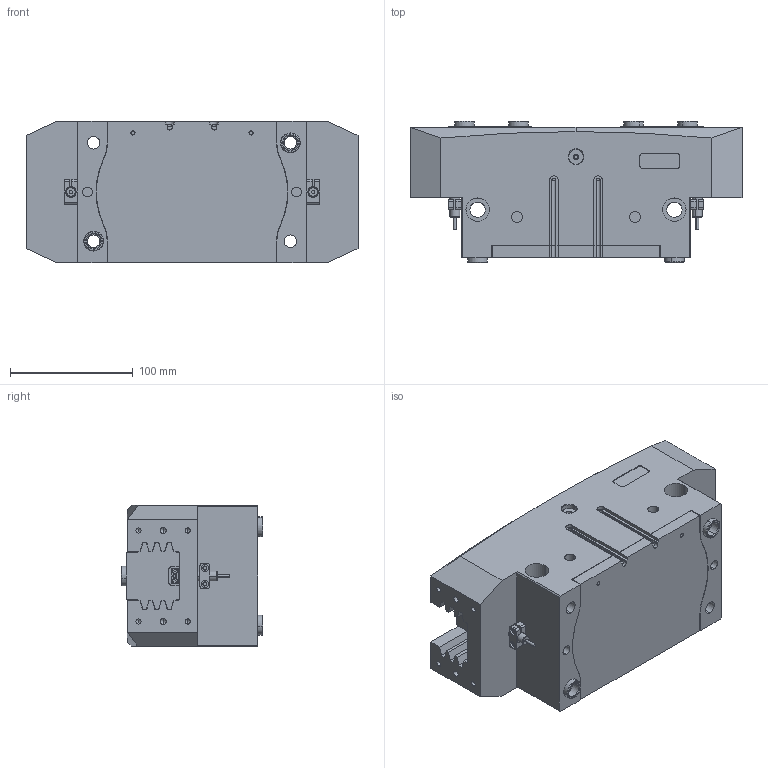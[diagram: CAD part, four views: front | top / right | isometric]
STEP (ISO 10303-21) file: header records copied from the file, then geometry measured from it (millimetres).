
FILE_DESCRIPTION (( 'STEP AP214' ), '1' );
FILE_NAME ('ST117-30.STEP', '2026-04-12T04:05:56', ( '' ), ( '' ), 'SwSTEP 2.0', 'SolidWorks 2024', '' );
FILE_SCHEMA (( 'AUTOMOTIVE_DESIGN' ));
Length unit declared in the file: millimetre
Products named in the file (12): ____; ____16__12__8; ST117-T2; ST117-30; ST117-A1; ________.sldasm-Part-9; 8-30 _______1; ________________[GBT70_1-2008][M2.5__8]; ST117-A2; P-GS-T-01 __________; ST117-T301; ST117
Assembly tree (21 placements, depth 4):
  ST117-30
    ST117
      ____  x2
        ________.sldasm-Part-9
        ________________[GBT70_1-2008][M2.5__8]
      ST117-A1
      ST117-T301  x2
      ST117-A2
      8-30 _______1  x2
      P-GS-T-01 __________  x2
      ____16__12__8  x6
      ST117-T2
Bounding box: 270 x 115 x 115 mm (x, y, z)
Volume: 2520572.1 mm3; surface area: 314760.6 mm2
Topology: 21 solids, 25 shells, 933 faces, 2284 edges, 1413 vertices
Faces by surface type: plane 360, cylinder 346, cone 211, torus 16
Entity records: 26131 total; most frequent: CARTESIAN_POINT 5671, DIRECTION 3430, ORIENTED_EDGE 3086, EDGE_CURVE 1543, AXIS2_PLACEMENT_3D 1251, VERTEX_POINT 989, VECTOR 928, LINE 928
